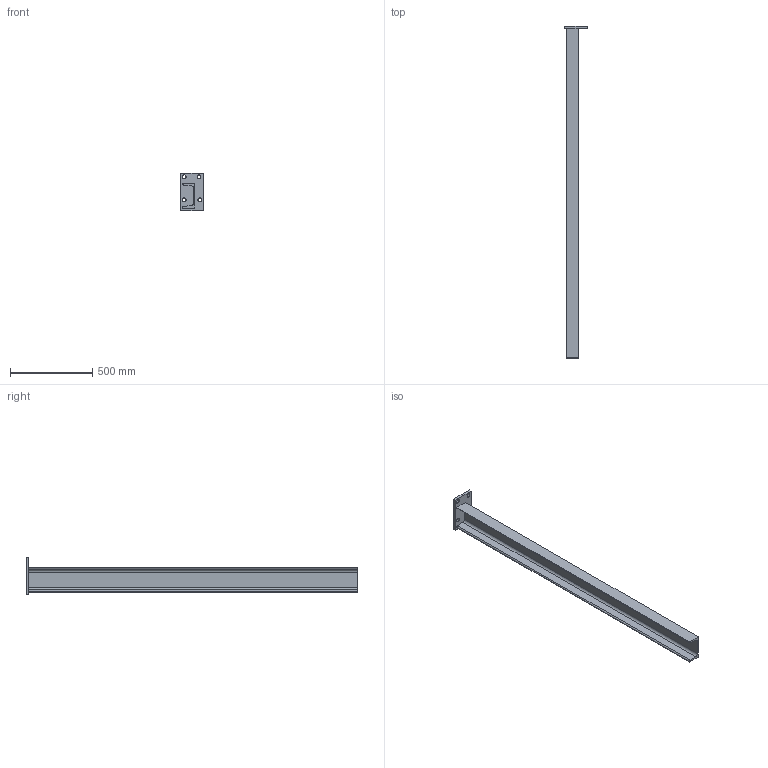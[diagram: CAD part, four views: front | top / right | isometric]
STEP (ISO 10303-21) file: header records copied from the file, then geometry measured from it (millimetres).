
FILE_DESCRIPTION(/* description */ (''),/* implementation_level */ '2;1');
FILE_NAME(/* name */ 'Channel-SS-15075912.5.step',/* time_stamp */ '2023-10-14T18:41:56+09:00',/* author */ (''),/* organization */ (''),/* preprocessor_version */ 'ST-DEVELOPER v20',/* originating_system */ 'Autodesk Translation Framework v12.14.0.127',/* authorisation */ '');
FILE_SCHEMA (('AUTOMOTIVE_DESIGN { 1 0 10303 214 3 1 1 }'));
Length unit declared in the file: millimetre
Products named in the file (2): Channle-150; Channel-steel_150x75x9x12.5
Assembly tree (1 placements, depth 2):
  Channle-150
    Channel-steel_150x75x9x12.5
Bounding box: 135 x 2016 x 225 mm (x, y, z)
Volume: 6577241.8 mm3; surface area: 1190178 mm2
Topology: 2 solids, 2 shells, 24 faces, 60 edges, 40 vertices
Faces by surface type: plane 16, cylinder 8
Full cylindrical faces by diameter (mm): 23 x4
Entity records: 797 total; most frequent: DIRECTION 130, CARTESIAN_POINT 127, ORIENTED_EDGE 120, EDGE_CURVE 60, LINE 44, VECTOR 44, AXIS2_PLACEMENT_3D 43, VERTEX_POINT 40
